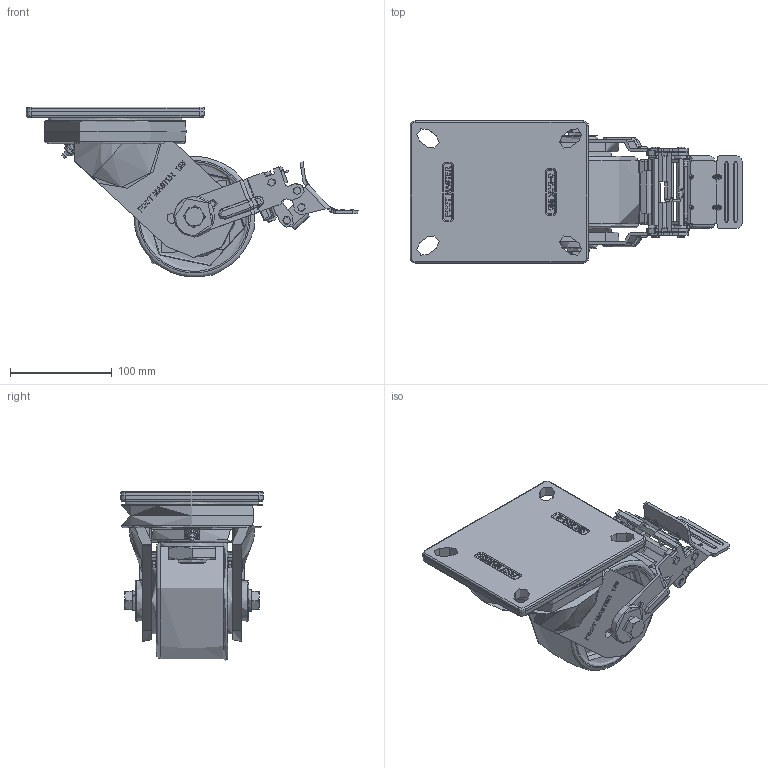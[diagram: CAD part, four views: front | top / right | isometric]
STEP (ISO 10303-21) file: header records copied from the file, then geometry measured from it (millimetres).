
FILE_DESCRIPTION(/* description */ (''),/* implementation_level */ '2;1');
FILE_NAME(/* name */ 'Y:\1.기술연구소\2.연구개발 진행중\133.고하중캐스터 브레이크 타입 변경건_2025.11.03\1.도면\4.홈페이지용 도면\01. 3D\GXT-125 SERIES\GXT-125-STEP\GXT-125-BSF-NYD-TB.stp',/* time_stamp */ '2026-07-22T11:03:26+09:00',/* author */ ('장용하'),/* organization */ (''),/* preprocessor_version */ 'ST-DEVELOPER v18.1',/* originating_system */ 'Autodesk Inventor 2021',/* authorisation */ '');
FILE_SCHEMA (('CONFIG_CONTROL_DESIGN'));
Length unit declared in the file: millimetre
Products named in the file (1): GXT-125-BSF-NYD-TB
Bounding box: 325.64 x 140 x 166.69 mm (x, y, z)
Topology: 1 solids, 5 shells, 2048 faces, 5487 edges, 3561 vertices
Faces by surface type: plane 888, bspline 600, cylinder 437, torus 76, cone 35, sphere 12
Full cylindrical faces by diameter (mm): 2 x7, 4 x6, 6 x2, 6.2 x14, 6.3 x2, 6.5 x4, 6.6 x2, 6.8 x4, 8 x6, 8.5 x4, 12 x2, 12.5 x2, 13 x2, 30 x1, 40 x2, 62.5 x1, 65 x2, 131.086 x1
Entity records: 69922 total; most frequent: CARTESIAN_POINT 21600, ORIENTED_EDGE 10974, DIRECTION 8534, EDGE_CURVE 5487, VERTEX_POINT 3561, LINE 2958, VECTOR 2958, AXIS2_PLACEMENT_3D 2788
